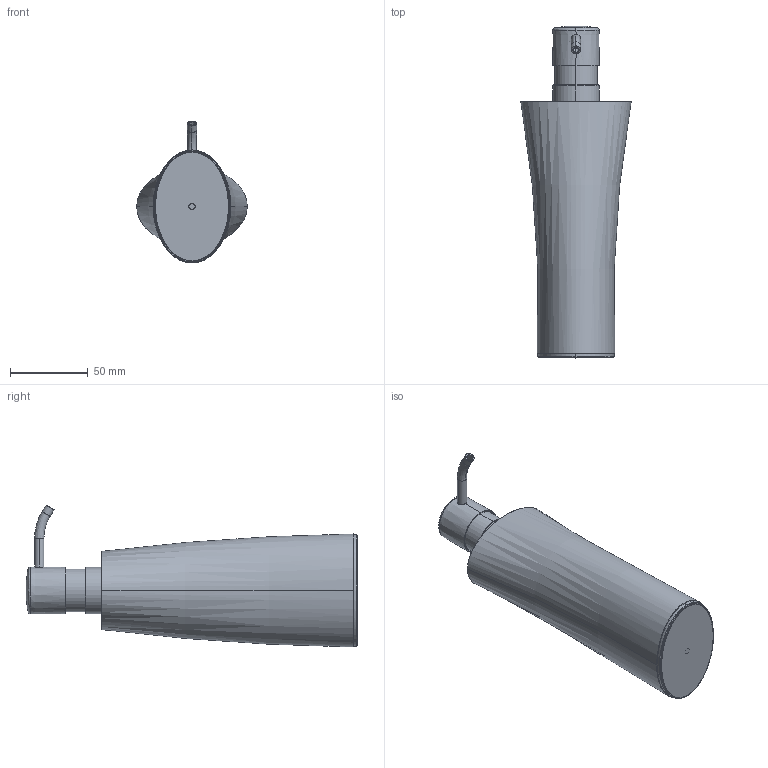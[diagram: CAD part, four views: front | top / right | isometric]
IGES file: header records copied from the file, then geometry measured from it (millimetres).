
Start section: SolidWorks IGES file using analytic representation for surfaces
Global section: file name: G:\Projects\New project\For Marketing\IGS\IGS\2015-12-25\767831318VW.IGS; native system: SolidWorks 2010; preprocessor: SolidWorks 2010; author: linda; date: 151216.101600; units: millimetre
Bounding box: 71.1 x 213.9 x 91.46 mm (x, y, z)
Surface area: 49502.5 mm2 (no closed solid volume)
Topology: 0 solids, 0 shells, 43 faces, 909 edges, 909 vertices
Faces by surface type: bspline 26, revolution 17
